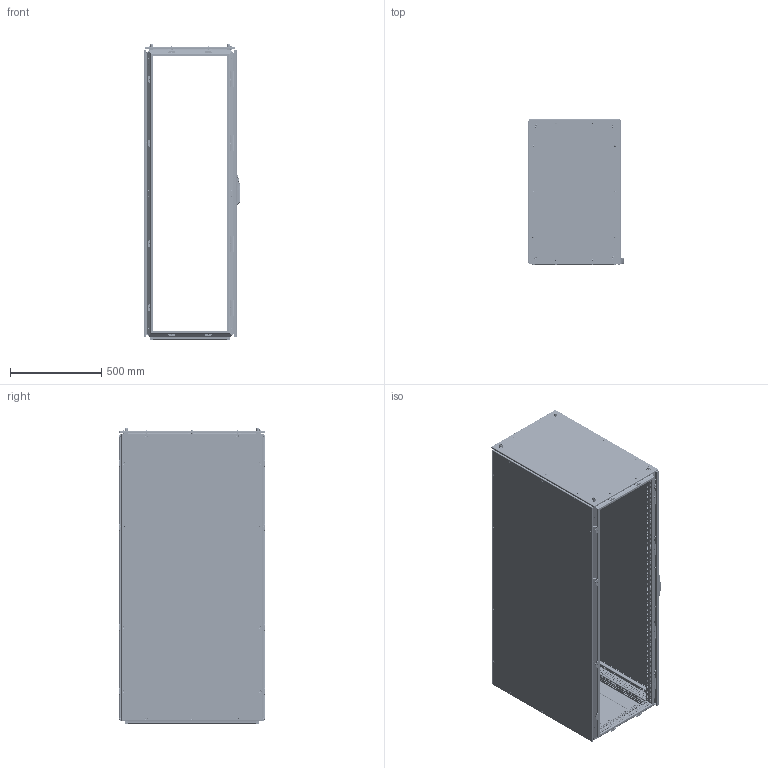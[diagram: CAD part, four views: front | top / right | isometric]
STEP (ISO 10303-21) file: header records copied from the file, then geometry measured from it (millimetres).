
FILE_DESCRIPTION(('STEP AP203'), '1');
FILE_NAME('ØÍÑ ÊÑ PRO II Êîðïóñ ÑÁ', '', ('UNSPECIFIED'), ('UNSPECIFIED'), 'C3D Converter', 'C3D Toolkit', '');
FILE_SCHEMA(('CONFIG_CONTROL_DESIGN'));
Length unit declared in the file: millimetre
Products named in the file (49): 3110.160.80.50; 3000; 3007.75; 3007.200; 3009.04; 3009.04.01; 3009.04.2; 3009.04.01.2; 3301; 3310; 3311; 3302; 3211; 3410; 3420; 3421; 3422.01; 3412; 3411; 2952; 3009.05; 3009.05.01; 3622.01; 3009.08; 3009.08.01
Assembly tree (309 placements, depth 5):
  3110.160.80.50
    3000
      3000
      (unnamed)  x96
      3007.75  x2
      (unnamed)  x8
      3007.200
      3009.04  x10
        3009.04.01
        (unnamed)
        (unnamed)
      3009.04.2  x15
        3009.04.01.2
        (unnamed)
        (unnamed)
    3301
      3310
        3311
        (unnamed)
      (unnamed)  x10
      (unnamed)  x10
      (unnamed)  x4
      (unnamed)  x4
    3302
      3211
      (unnamed)  x2
      (unnamed)  x14
    3410
      3420
        3421
        3422.01  x4
        (unnamed)  x14
        (unnamed)  x8
        (unnamed)  x2
      3412  x2
      3411  x2
      (unnamed)  x4
      (unnamed)  x14
      (unnamed)  x22
      (unnamed)  x8
      2952
        (unnamed)
          (unnamed)
          (unnamed)
          (unnamed)
          (unnamed)
          (unnamed)
      (unnamed)  x2
      3009.05  x4
        3009.05.01
        (unnamed)
        (unnamed)
      3622.01  x4
      (unnamed)  x4
      3009.08  x4
        3009.08.01
        (unnamed)
        (unnamed)
Bounding box: 524.04 x 797.07 x 1616 mm (x, y, z)
Volume: 9217399.4 mm3; surface area: 11742638.4 mm2
Topology: 418 solids, 418 shells, 21434 faces, 58286 edges, 38324 vertices
Faces by surface type: plane 14375, cylinder 5260, cone 1195, torus 372, bspline 203, sphere 29
Full cylindrical faces by diameter (mm): 0.5 x22, 4.134 x144, 4.3 x2, 4.5 x1800, 4.8 x8, 4.917 x22, 5 x194, 5.2 x1, 5.5 x10, 5.8 x48, 6 x53, 6.1 x4, 6.6 x22, 6.75 x22, 6.8 x192, 7 x104, 7.3 x22, 7.5 x82, 8 x116, 8.3 x16, 8.5 x11, 9.2 x82, 10 x33, 10.106 x8, 10.5 x4, 11.5 x10, 12 x30, 13 x1, 13.5 x4, 14 x8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
Entity records: 424092 total; most frequent: CARTESIAN_POINT 94740, ORIENTED_EDGE 62628, DIRECTION 59770, EDGE_CURVE 31314, LINE 24466, VECTOR 24466, VERTEX_POINT 21893, EDGE_LOOP 20935
